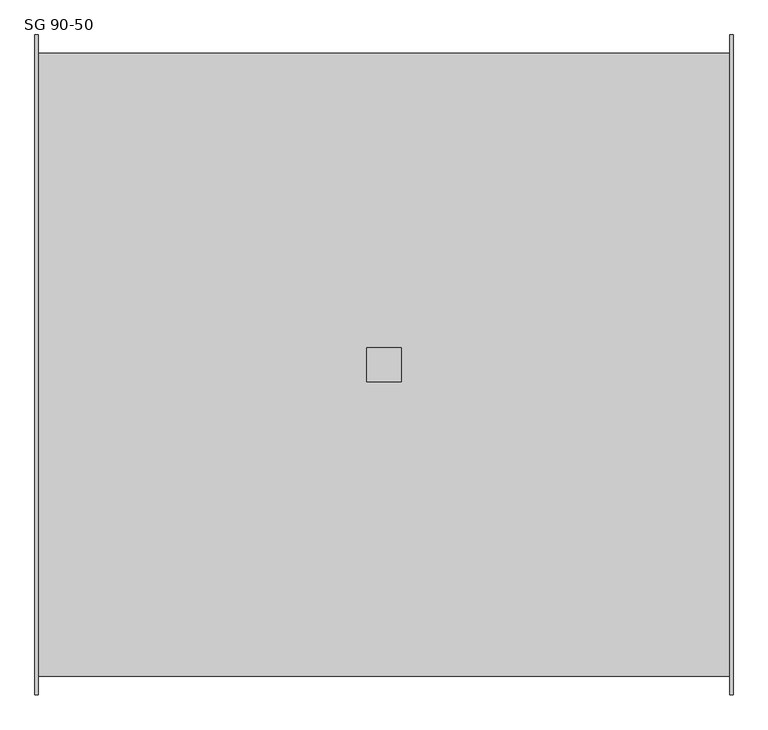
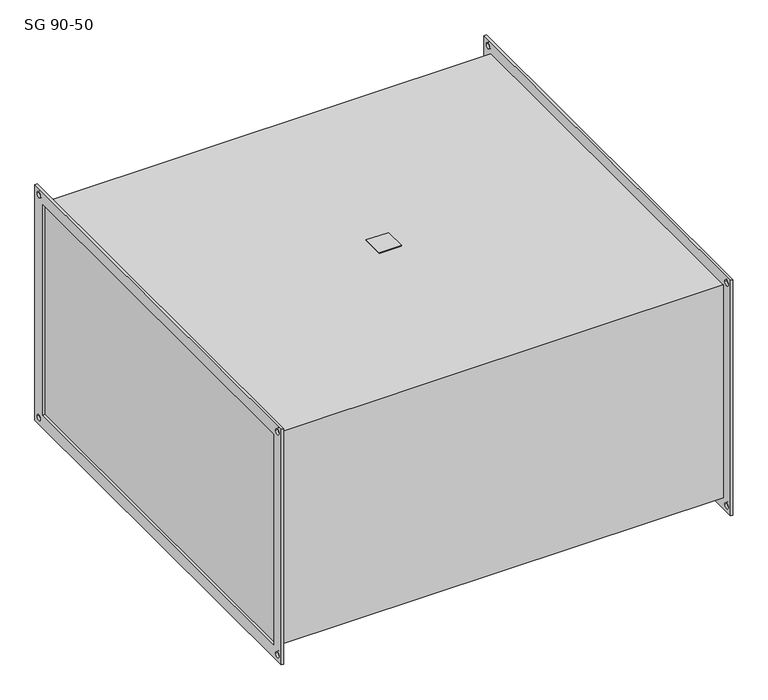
"""IFC4 building model written with IfcOpenShell, lengths in millimetres: damper geometry, KORF_Шумоглушитель_SG : SG 90-50."""

from ifc_helpers import new_model, si_unit, point, frame, frame_2d, origin, place, context, project, spatial, polyline, circle_curve, trimmed, segment, composite_curve, outline, extrude, source, transform, mapped, element, save


def sg_90_50_faf93912(model_context):
    return source(origin(), model_context, "Body", "SweptSolid", [
        extrude(outline(polyline([(483.0, -25.0), (483.0, 25.0), (533.0, 25.0), (533.0, -25.0), (483.0, -25.0)])), frame((0.0, 0.0, 253.0), z_axis=(0.0, 0.0, 1.0), x_axis=(1.0, 0.0, 0.0)), (0.0, 0.0, 1.0), 2.0),
        extrude(outline(polyline([(-480.0, 280.0), (480.0, 280.0), (480.0, -280.0), (-480.0, -280.0), (-480.0, 280.0)]), holes=[polyline([(-450.0, 250.0), (-450.0, -250.0), (450.0, -250.0), (450.0, 250.0), (-450.0, 250.0)]), composite_curve([segment(trimmed(circle_curve(frame_2d((465.0, 265.0)), 6.5), [point((458.5, 265.0))], [point((471.5, 265.0))], True, "CARTESIAN"), True, "CONTINUOUS"), segment(trimmed(circle_curve(frame_2d((465.0, 265.0)), 6.5), [point((471.5, 265.0))], [point((458.5, 265.0))], True, "CARTESIAN"), True, "CONTINUOUS")], self_intersect=False), composite_curve([segment(trimmed(circle_curve(frame_2d((-465.0, 265.0)), 6.5), [point((-471.5, 265.0))], [point((-458.5, 265.0))], True, "CARTESIAN"), True, "CONTINUOUS"), segment(trimmed(circle_curve(frame_2d((-465.0, 265.0)), 6.5), [point((-458.5, 265.0))], [point((-471.5, 265.0))], True, "CARTESIAN"), True, "CONTINUOUS")], self_intersect=False), composite_curve([segment(trimmed(circle_curve(frame_2d((-465.0, -265.0)), 6.5), [point((-471.5, -265.0))], [point((-458.5, -265.0))], True, "CARTESIAN"), True, "CONTINUOUS"), segment(trimmed(circle_curve(frame_2d((-465.0, -265.0)), 6.5), [point((-458.5, -265.0))], [point((-471.5, -265.0))], True, "CARTESIAN"), True, "CONTINUOUS")], self_intersect=False), composite_curve([segment(trimmed(circle_curve(frame_2d((465.0, -265.0)), 6.5), [point((458.5, -265.0))], [point((471.5, -265.0))], True, "CARTESIAN"), True, "CONTINUOUS"), segment(trimmed(circle_curve(frame_2d((465.0, -265.0)), 6.5), [point((471.5, -265.0))], [point((458.5, -265.0))], True, "CARTESIAN"), True, "CONTINUOUS")], self_intersect=False)]), frame((1011.0, 0.0, 0.0), z_axis=(1.0, 0.0, 0.0), x_axis=(0.0, 1.0, 0.0)), (0.0, 0.0, 1.0), 5.0),
        extrude(outline(polyline([(-480.0, 280.0), (480.0, 280.0), (480.0, -280.0), (-480.0, -280.0), (-480.0, 280.0)]), holes=[polyline([(-450.0, 250.0), (-450.0, -250.0), (450.0, -250.0), (450.0, 250.0), (-450.0, 250.0)]), composite_curve([segment(trimmed(circle_curve(frame_2d((465.0, 265.0)), 6.5), [point((458.5, 265.0))], [point((471.5, 265.0))], True, "CARTESIAN"), True, "CONTINUOUS"), segment(trimmed(circle_curve(frame_2d((465.0, 265.0)), 6.5), [point((471.5, 265.0))], [point((458.5, 265.0))], True, "CARTESIAN"), True, "CONTINUOUS")], self_intersect=False), composite_curve([segment(trimmed(circle_curve(frame_2d((-465.0, 265.0)), 6.5), [point((-471.5, 265.0))], [point((-458.5, 265.0))], True, "CARTESIAN"), True, "CONTINUOUS"), segment(trimmed(circle_curve(frame_2d((-465.0, 265.0)), 6.5), [point((-458.5, 265.0))], [point((-471.5, 265.0))], True, "CARTESIAN"), True, "CONTINUOUS")], self_intersect=False), composite_curve([segment(trimmed(circle_curve(frame_2d((-465.0, -265.0)), 6.5), [point((-471.5, -265.0))], [point((-458.5, -265.0))], True, "CARTESIAN"), True, "CONTINUOUS"), segment(trimmed(circle_curve(frame_2d((-465.0, -265.0)), 6.5), [point((-458.5, -265.0))], [point((-471.5, -265.0))], True, "CARTESIAN"), True, "CONTINUOUS")], self_intersect=False), composite_curve([segment(trimmed(circle_curve(frame_2d((465.0, -265.0)), 6.5), [point((458.5, -265.0))], [point((471.5, -265.0))], True, "CARTESIAN"), True, "CONTINUOUS"), segment(trimmed(circle_curve(frame_2d((465.0, -265.0)), 6.5), [point((471.5, -265.0))], [point((458.5, -265.0))], True, "CARTESIAN"), True, "CONTINUOUS")], self_intersect=False)]), frame((0.0, 0.0, 0.0), z_axis=(1.0, 0.0, 0.0), x_axis=(0.0, 1.0, 0.0)), (0.0, 0.0, 1.0), 5.0),
        extrude(outline(polyline([(1011.0, 453.0), (1011.0, -453.0), (5.0, -453.0), (5.0, 453.0), (1011.0, 453.0)])), frame((0.0, 0.0, -253.0), z_axis=(0.0, 0.0, 1.0), x_axis=(1.0, 0.0, 0.0)), (0.0, 0.0, 1.0), 506.0),
    ])


if __name__ == "__main__":
    model = new_model("IFC4")
    model_context = context("Model", 3, world=origin())
    ifc_project = project(units=[si_unit("LENGTHUNIT", "METRE", prefix="MILLI")], contexts=[model_context])
    site = spatial("IfcSite", under=ifc_project)
    building = spatial("IfcBuilding", under=site)
    placement = place(None, origin())
    sg_90_50_shape = sg_90_50_faf93912(model_context)
    element("IfcDamper", 1, ObjectType="KORF_Шумоглушитель_SG : SG 90-50", at=placement, inside=building, context=model_context, shape_type="MappedRepresentation", body=[
        mapped(sg_90_50_shape, transform((0.0, 0.0, 0.0), x_axis=(1.0, 0.0, 0.0), y_axis=(0.0, 1.0, 0.0), z_axis=(0.0, 0.0, 1.0))),
    ])
    save(model, "model.ifc")
